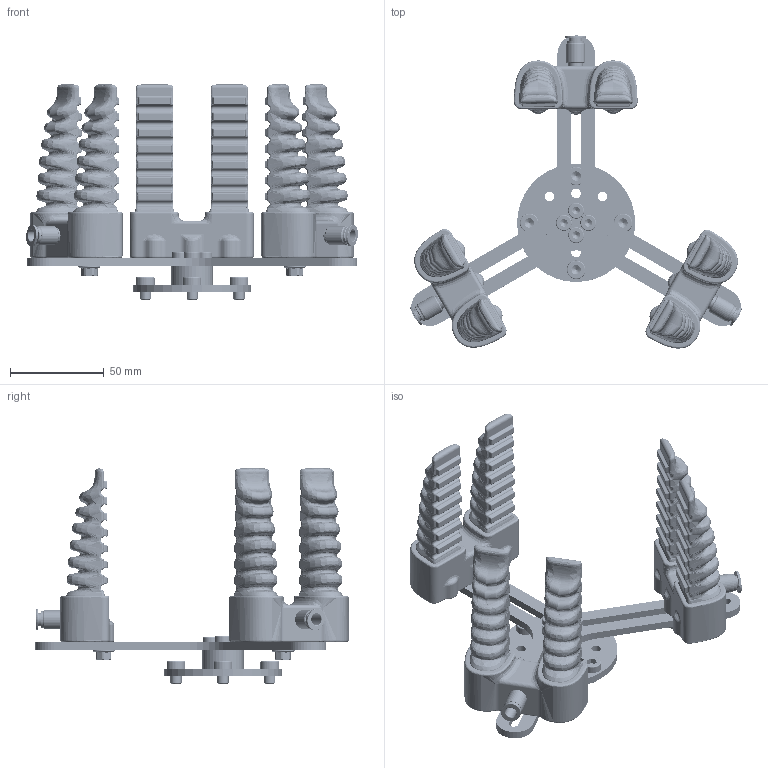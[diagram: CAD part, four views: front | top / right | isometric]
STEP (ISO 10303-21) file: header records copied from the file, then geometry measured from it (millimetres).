
FILE_DESCRIPTION (( 'STEP AP214' ), '1' );
FILE_NAME ('SG.AN.F2.S60.P3.A185.R50.STEP', '2022-04-01T07:42:28', ( '' ), ( '' ), 'SwSTEP 2.0', 'SolidWorks 2019', '' );
FILE_SCHEMA (( 'AUTOMOTIVE_DESIGN' ));
Length unit declared in the file: millimetre
Products named in the file (27): SG.AN.F2.S60.P3.A185.R50; SG.A.IL.F2.02.S60; KVT 6238 M5-316; SG.AN.F2; SG_FI.60; Finger_lang - gefuellt; SG.AN.R50; SG.FI..IF; iqsmm56i_10795; DIN 7984 I-6Kt Zyl-Schr. A2 M 6x8; SG.FI.SD; M3x20-ISO_7380-2; DIN_6921_Schraube M5x12 Flansch; DIN 7984 I-6Kt Zyl-Schr. A2 M 5x8; SG.AN.P3.A185; o-Ring_3x1
Assembly tree (74 placements, depth 4):
  SG.AN.F2.S60.P3.A185.R50
    SG.AN.P3.A185
    DIN 7984 I-6Kt Zyl-Schr. A2 M 5x8  x4
    SG.A.IL.F2.02.S60
      SG_FI.60
        Finger_lang - gefuellt
        SG.FI..IF
        SG.FI.SD
      SG_FI.60
        Finger_lang - gefuellt
        SG.FI..IF
        SG.FI.SD
      SG.AN.F2
        SG.AN.F2
        KVT 6238 M5-316  x4
        M3x20-ISO_7380-2  x2
        o-Ring_3x1  x2
        iqsmm56i_10795
        DIN_6921_Schraube M5x12 Flansch
    SG.A.IL.F2.02.S60
      SG_FI.60
        Finger_lang - gefuellt
        SG.FI..IF
        SG.FI.SD
      SG_FI.60
        Finger_lang - gefuellt
        SG.FI..IF
        SG.FI.SD
      SG.AN.F2
        SG.AN.F2
        KVT 6238 M5-316  x4
        M3x20-ISO_7380-2  x2
        o-Ring_3x1  x2
        iqsmm56i_10795
        DIN_6921_Schraube M5x12 Flansch
    SG.A.IL.F2.02.S60
      SG_FI.60
        Finger_lang - gefuellt
        SG.FI..IF
        SG.FI.SD
      SG_FI.60
        Finger_lang - gefuellt
        SG.FI..IF
        SG.FI.SD
      SG.AN.F2
        SG.AN.F2
        KVT 6238 M5-316  x4
        M3x20-ISO_7380-2  x2
        o-Ring_3x1  x2
        iqsmm56i_10795
        DIN_6921_Schraube M5x12 Flansch
    SG.AN.R50
      SG.AN.R50
      DIN 7984 I-6Kt Zyl-Schr. A2 M 6x8  x4
Bounding box: 177.02 x 167.05 x 114.65 mm (x, y, z)
Volume: 261689.5 mm3; surface area: 135700.7 mm2
Topology: 64 solids, 64 shells, 5821 faces, 14017 edges, 8198 vertices
Faces by surface type: bspline 2541, cylinder 1146, plane 944, sphere 540, cone 340, torus 310
Entity records: 90805 total; most frequent: CARTESIAN_POINT 63567, ORIENTED_EDGE 5904, DIRECTION 4883, EDGE_CURVE 2952, AXIS2_PLACEMENT_3D 2074, VERTEX_POINT 1773, EDGE_LOOP 1361, ADVANCED_FACE 1252
